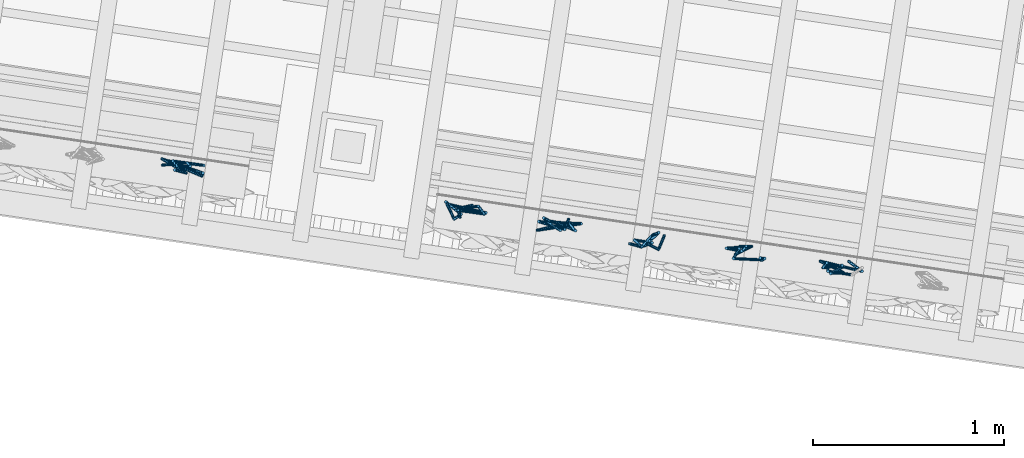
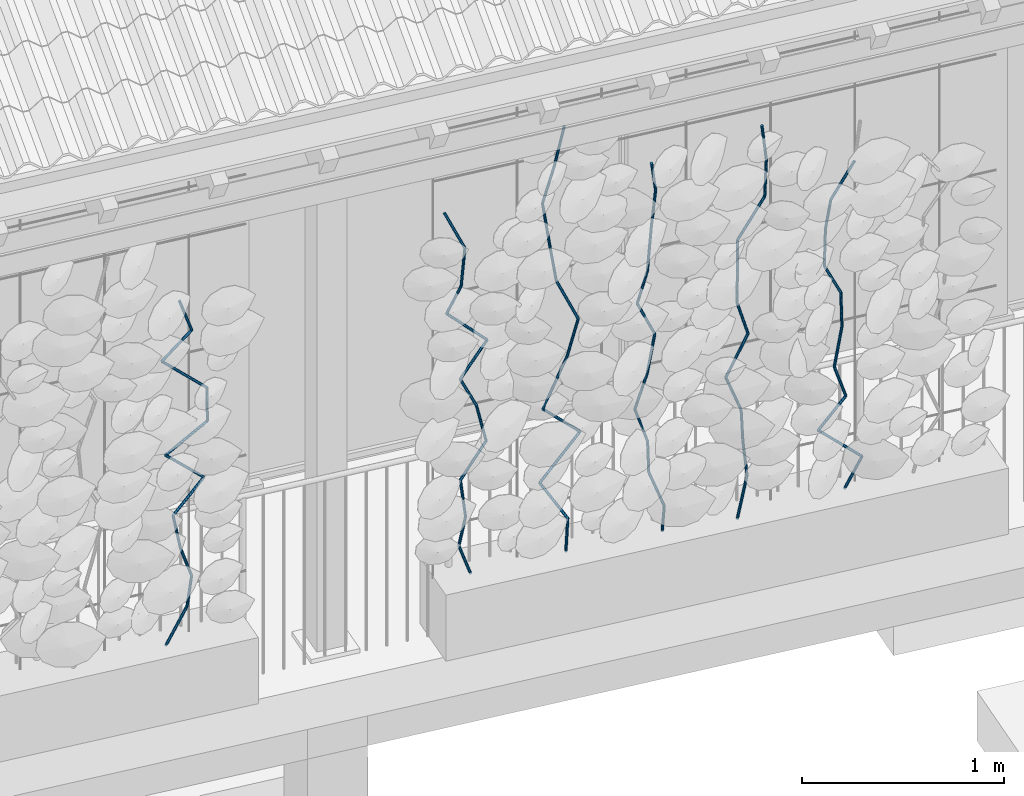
# One storey, part 112 of 131: 65 members, 1 element without a shape of its own.
"""IFC4 building model written with IfcOpenShell, lengths in metres."""

from ifc_helpers import new_model, si_unit, direction, frame, origin_with_axes, place, context, subcontext, project, spatial, circle, extrude, material, material_profile, profile_set, profile_usage, type_object, element, aggregate, save


model = new_model("IFC4")

# Units and contexts
model_context = context("Model", 3, precision=1e-05, world=origin_with_axes(), true_north=direction((0.0, 1.0)))
body_context = subcontext(model_context, "Body", "Model", "MODEL_VIEW")
ifc_project = project(units=[si_unit("VOLUMEUNIT", "CUBIC_METRE"), si_unit("LENGTHUNIT", "METRE"), si_unit("AREAUNIT", "SQUARE_METRE")], contexts=[model_context])

# Site, building, storey
site_placement = place(None, origin_with_axes())
site = spatial("IfcSite", under=ifc_project, at=site_placement, Name="Lares · Rua das Mercês · artigo 4771")
building_placement = place(site_placement, frame((15.0, 9.7, 14.65), z_axis=(0.0, 0.0, 1.0), x_axis=(0.989015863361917, -0.147809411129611, 0.0)))
building = spatial("IfcBuilding", under=site, at=building_placement, Name="Casa Sobreposta")
storey_placement = place(building_placement, origin_with_axes())
storey = spatial("IfcBuildingStorey", under=building, at=storey_placement, Name="00 · Habitação e estacionamento", Elevation=14.65)

# Assembly, members
assembly_placement = place(storey_placement, origin_with_axes())
assembly = element("IfcElementAssembly", 1, at=assembly_placement, inside=storey, Name="Fachada sul e pátio · estrutura e trepadeiras", ObjectType="LIVING_SHADE_TRELLIS", PredefinedType="USERDEFINED")
ifc_material = material(Name="Ramos de trepadeiras", Category="wood")
ifc_material_profile = material_profile(ifc_material, circle(Radius=0.0075))
ifc_profile_set = profile_set([ifc_material_profile], Name="D0.015")
ifc_profile_usage_1 = profile_usage(ifc_profile_set)
member_type = type_object("IfcMemberType", Name="D0.015 / vine_wood", PredefinedType="NOTDEFINED", material=ifc_profile_set)
member_1_placement = place(assembly_placement, frame((11.0508018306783, -1.67058010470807, 0.35), z_axis=(0.55084152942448, 0.13203763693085, 0.824099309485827), x_axis=(0.233098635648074, -0.972453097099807, 0.0)))
member_1 = element("IfcMember", 2, at=member_1_placement, type_object=member_type, material=ifc_profile_usage_1, Name="Trepadeiras · ramo", context=body_context, shape_type="SweptSolid", body=[
    extrude(circle(Radius=0.0075), origin_with_axes(), (0.0, 0.0, 1.0), 0.229820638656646),
])
ifc_profile_usage_2 = profile_usage(ifc_profile_set)
member_2_placement = place(assembly_placement, frame((11.1773965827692, -1.64023513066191, 0.539395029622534), z_axis=(0.0965667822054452, -0.0753530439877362, 0.992470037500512), x_axis=(-0.615188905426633, -0.788379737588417, 0.0)))
member_2 = element("IfcMember", 3, at=member_2_placement, type_object=member_type, material=ifc_profile_usage_2, Name="Trepadeiras · ramo", context=body_context, shape_type="SweptSolid", body=[
    extrude(circle(Radius=0.0075), origin_with_axes(), (0.0, 0.0, 1.0), 0.190831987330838),
])
ifc_profile_usage_3 = profile_usage(ifc_profile_set)
member_3_placement = place(assembly_placement, frame((11.1958246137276, -1.65461490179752, 0.728790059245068), z_axis=(-0.321966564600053, -0.0649523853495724, 0.944520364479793), x_axis=(-0.197752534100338, 0.980251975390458, 0.0)))
member_3 = element("IfcMember", 4, at=member_3_placement, type_object=member_type, material=ifc_profile_usage_3, Name="Trepadeiras · ramo", context=body_context, shape_type="SweptSolid", body=[
    extrude(circle(Radius=0.0075), origin_with_axes(), (0.0, 0.0, 1.0), 0.200519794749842),
])
ifc_profile_usage_4 = profile_usage(ifc_profile_set)
member_4_placement = place(assembly_placement, frame((11.1312639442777, -1.66763914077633, 0.918185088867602), z_axis=(-0.150701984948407, 0.136169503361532, 0.979156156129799), x_axis=(0.670426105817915, 0.741976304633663, 0.0)))
member_4 = element("IfcMember", 5, at=member_4_placement, type_object=member_type, material=ifc_profile_usage_4, Name="Trepadeiras · ramo", context=body_context, shape_type="SweptSolid", body=[
    extrude(circle(Radius=0.0075), origin_with_axes(), (0.0, 0.0, 1.0), 0.193426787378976),
])
ifc_profile_usage_5 = profile_usage(ifc_profile_set)
member_5_placement = place(assembly_placement, frame((11.1021141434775, -1.64130031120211, 1.10758011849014), z_axis=(0.657135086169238, 0.00567038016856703, 0.753751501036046), x_axis=(0.00862862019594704, -0.999962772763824, 0.0)))
member_5 = element("IfcMember", 6, at=member_5_placement, type_object=member_type, material=ifc_profile_usage_5, Name="Trepadeiras · ramo", context=body_context, shape_type="SweptSolid", body=[
    extrude(circle(Radius=0.0075), origin_with_axes(), (0.0, 0.0, 1.0), 0.251269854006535),
])
ifc_profile_usage_6 = profile_usage(ifc_profile_set)
member_6_placement = place(assembly_placement, frame((11.2672323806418, -1.639875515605, 1.29697514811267), z_axis=(-0.736902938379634, -0.0183902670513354, 0.675748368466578), x_axis=(-0.0249483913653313, 0.999688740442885, 0.0)))
member_6 = element("IfcMember", 7, at=member_6_placement, type_object=member_type, material=ifc_profile_usage_6, Name="Trepadeiras · ramo", context=body_context, shape_type="SweptSolid", body=[
    extrude(circle(Radius=0.0075), origin_with_axes(), (0.0, 0.0, 1.0), 0.280274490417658),
])
ifc_profile_usage_7 = profile_usage(ifc_profile_set)
member_7_placement = place(assembly_placement, frame((11.0606972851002, -1.64502983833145, 1.4863701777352), z_axis=(0.718234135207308, -0.182084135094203, 0.671554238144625), x_axis=(-0.245742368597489, -0.96933517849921, 0.0)))
member_7 = element("IfcMember", 8, at=member_7_placement, type_object=member_type, material=ifc_profile_usage_7, Name="Trepadeiras · ramo", context=body_context, shape_type="SweptSolid", body=[
    extrude(circle(Radius=0.0075), origin_with_axes(), (0.0, 0.0, 1.0), 0.282024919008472),
])
ifc_profile_usage_8 = profile_usage(ifc_profile_set)
member_8_placement = place(assembly_placement, frame((11.2632572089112, -1.69638210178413, 1.67576520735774), z_axis=(0.0233499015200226, 0.0843302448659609, 0.996164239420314), x_axis=(0.963739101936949, -0.266846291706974, 0.0)))
member_8 = element("IfcMember", 9, at=member_8_placement, type_object=member_type, material=ifc_profile_usage_8, Name="Trepadeiras · ramo", context=body_context, shape_type="SweptSolid", body=[
    extrude(circle(Radius=0.0075), origin_with_axes(), (0.0, 0.0, 1.0), 0.190124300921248),
])
ifc_profile_usage_9 = profile_usage(ifc_profile_set)
member_9_placement = place(assembly_placement, frame((11.2676965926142, -1.68034887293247, 1.86516023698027), z_axis=(-0.75677604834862, 0.141746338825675, 0.638120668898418), x_axis=(0.184101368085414, 0.982907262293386, 0.0)))
member_9 = element("IfcMember", 10, at=member_9_placement, type_object=member_type, material=ifc_profile_usage_9, Name="Trepadeiras · ramo", context=body_context, shape_type="SweptSolid", body=[
    extrude(circle(Radius=0.0075), origin_with_axes(), (0.0, 0.0, 1.0), 0.296801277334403),
])
ifc_profile_usage_10 = profile_usage(ifc_profile_set)
member_10_placement = place(assembly_placement, frame((11.0430844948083, -1.63827837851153, 2.05455526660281), z_axis=(0.573801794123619, -0.22738060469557, 0.786797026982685), x_axis=(-0.368399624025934, -0.929667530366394, 0.0)))
member_10 = element("IfcMember", 11, at=member_10_placement, type_object=member_type, material=ifc_profile_usage_10, Name="Trepadeiras · ramo", context=body_context, shape_type="SweptSolid", body=[
    extrude(circle(Radius=0.0075), origin_with_axes(), (0.0, 0.0, 1.0), 0.24071650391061),
])
ifc_profile_usage_11 = profile_usage(ifc_profile_set)
member_11_placement = place(assembly_placement, frame((11.1812080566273, -1.69301264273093, 2.24395029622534), z_axis=(-0.315945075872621, 0.0343198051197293, 0.948156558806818), x_axis=(0.107990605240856, 0.994151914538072, 0.0)))
member_11 = element("IfcMember", 12, at=member_11_placement, type_object=member_type, material=ifc_profile_usage_11, Name="Trepadeiras · ramo", context=body_context, shape_type="SweptSolid", body=[
    extrude(circle(Radius=0.0075), origin_with_axes(), (0.0, 0.0, 1.0), 0.199750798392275),
])
ifc_profile_usage_12 = profile_usage(ifc_profile_set)
member_12_placement = place(assembly_placement, frame((12.6883643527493, -1.63917440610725, 0.35), z_axis=(-0.336470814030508, -0.125122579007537, 0.933344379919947), x_axis=(-0.348548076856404, 0.937290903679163, 1.80409402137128e-17)))
member_12 = element("IfcMember", 13, at=member_12_placement, type_object=member_type, material=ifc_profile_usage_12, Name="Trepadeiras · ramo", context=body_context, shape_type="SweptSolid", body=[
    extrude(circle(Radius=0.0075), origin_with_axes(), (0.0, 0.0, 1.0), 0.216077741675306),
])
ifc_profile_usage_13 = profile_usage(ifc_profile_set)
member_13_placement = place(assembly_placement, frame((12.615660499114, -1.66621061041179, 0.551674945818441), z_axis=(0.0887015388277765, -0.214341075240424, 0.972722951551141), x_axis=(-0.924003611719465, -0.382383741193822, 0.0)))
member_13 = element("IfcMember", 14, at=member_13_placement, type_object=member_type, material=ifc_profile_usage_13, Name="Trepadeiras · ramo", context=body_context, shape_type="SweptSolid", body=[
    extrude(circle(Radius=0.0075), origin_with_axes(), (0.0, 0.0, 1.0), 0.207330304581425),
])
ifc_profile_usage_14 = profile_usage(ifc_profile_set)
member_14_placement = place(assembly_placement, frame((12.634051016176, -1.7106500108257, 0.753349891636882), z_axis=(-0.0687036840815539, 0.170096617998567, 0.983029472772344), x_axis=(0.92722135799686, 0.374513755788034, 0.0)))
member_14 = element("IfcMember", 15, at=member_14_placement, type_object=member_type, material=ifc_profile_usage_14, Name="Trepadeiras · ramo", context=body_context, shape_type="SweptSolid", body=[
    extrude(circle(Radius=0.0075), origin_with_axes(), (0.0, 0.0, 1.0), 0.205156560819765),
])
ifc_profile_usage_15 = profile_usage(ifc_profile_set)
member_15_placement = place(assembly_placement, frame((12.6199560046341, -1.67575357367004, 0.955024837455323), z_axis=(0.56454217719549, 0.00456700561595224, 0.825391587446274), x_axis=(0.00808948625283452, -0.999967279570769, 0.0)))
member_15 = element("IfcMember", 16, at=member_15_placement, type_object=member_type, material=ifc_profile_usage_15, Name="Trepadeiras · ramo", context=body_context, shape_type="SweptSolid", body=[
    extrude(circle(Radius=0.0075), origin_with_axes(), (0.0, 0.0, 1.0), 0.244338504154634),
])
ifc_profile_usage_16 = profile_usage(ifc_profile_set)
member_16_placement = place(assembly_placement, frame((12.7578953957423, -1.67463767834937, 1.15669978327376), z_axis=(-0.181709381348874, 0.171499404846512, 0.968281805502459), x_axis=(0.686380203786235, 0.727242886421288, 0.0)))
member_16 = element("IfcMember", 17, at=member_16_placement, type_object=member_type, material=ifc_profile_usage_16, Name="Trepadeiras · ramo", context=body_context, shape_type="SweptSolid", body=[
    extrude(circle(Radius=0.0075), origin_with_axes(), (0.0, 0.0, 1.0), 0.208281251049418),
])
ifc_profile_usage_17 = profile_usage(ifc_profile_set)
member_17_placement = place(assembly_placement, frame((12.7200487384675, -1.63891756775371, 1.3583747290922), z_axis=(-0.431555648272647, -0.12512410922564, 0.893366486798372), x_axis=(-0.278468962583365, 0.960445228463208, 0.0)))
member_17 = element("IfcMember", 18, at=member_17_placement, type_object=member_type, material=ifc_profile_usage_17, Name="Trepadeiras · ramo", context=body_context, shape_type="SweptSolid", body=[
    extrude(circle(Radius=0.0075), origin_with_axes(), (0.0, 0.0, 1.0), 0.225747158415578),
])
ifc_profile_usage_18 = profile_usage(ifc_profile_set)
member_18_placement = place(assembly_placement, frame((12.6226262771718, -1.66716397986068, 1.56004967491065), z_axis=(0.579734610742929, -0.000937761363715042, 0.814804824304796), x_axis=(-0.00161756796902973, -0.999998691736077, 0.0)))
member_18 = element("IfcMember", 19, at=member_18_placement, type_object=member_type, material=ifc_profile_usage_18, Name="Trepadeiras · ramo", context=body_context, shape_type="SweptSolid", body=[
    extrude(circle(Radius=0.0075), origin_with_axes(), (0.0, 0.0, 1.0), 0.247513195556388),
])
ifc_profile_usage_19 = profile_usage(ifc_profile_set)
member_19_placement = place(assembly_placement, frame((12.7661182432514, -1.66739608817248, 1.76172462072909), z_axis=(-0.719812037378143, 0.0546625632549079, 0.692013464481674), x_axis=(0.0757220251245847, 0.997128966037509, 0.0)))
member_19 = element("IfcMember", 20, at=member_19_placement, type_object=member_type, material=ifc_profile_usage_19, Name="Trepadeiras · ramo", context=body_context, shape_type="SweptSolid", body=[
    extrude(circle(Radius=0.0075), origin_with_axes(), (0.0, 0.0, 1.0), 0.291432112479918),
])
ifc_profile_usage_20 = profile_usage(ifc_profile_set)
member_20_placement = place(assembly_placement, frame((12.5563419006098, -1.65146566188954, 1.96339956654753), z_axis=(0.222509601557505, -0.33094915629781, 0.917039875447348), x_axis=(-0.829871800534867, -0.55795411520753, 0.0)))
member_20 = element("IfcMember", 21, at=member_20_placement, type_object=member_type, material=ifc_profile_usage_20, Name="Trepadeiras · ramo", context=body_context, shape_type="SweptSolid", body=[
    extrude(circle(Radius=0.0075), origin_with_axes(), (0.0, 0.0, 1.0), 0.21991949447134),
])
ifc_profile_usage_21 = profile_usage(ifc_profile_set)
member_21_placement = place(assembly_placement, frame((12.6052760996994, -1.72424783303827, 2.16507451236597), z_axis=(0.155301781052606, 0.148135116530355, 0.976697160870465), x_axis=(0.690213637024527, -0.723605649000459, 0.0)))
member_21 = element("IfcMember", 22, at=member_21_placement, type_object=member_type, material=ifc_profile_usage_21, Name="Trepadeiras · ramo", context=body_context, shape_type="SweptSolid", body=[
    extrude(circle(Radius=0.0075), origin_with_axes(), (0.0, 0.0, 1.0), 0.206486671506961),
])
ifc_profile_usage_22 = profile_usage(ifc_profile_set)
member_22_placement = place(assembly_placement, frame((12.637343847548, -1.69365990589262, 2.36674945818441), z_axis=(-0.391632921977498, 0.230705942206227, 0.890729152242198), x_axis=(0.507565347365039, 0.86161326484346, 0.0)))
member_22 = element("IfcMember", 23, at=member_22_placement, type_object=member_type, material=ifc_profile_usage_22, Name="Trepadeiras · ramo", context=body_context, shape_type="SweptSolid", body=[
    extrude(circle(Radius=0.0075), origin_with_axes(), (0.0, 0.0, 1.0), 0.22641556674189),
])
ifc_profile_usage_23 = profile_usage(ifc_profile_set)
member_23_placement = place(assembly_placement, frame((13.1981378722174, -1.63647160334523, 0.35), z_axis=(-0.0483561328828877, -0.226410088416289, 0.972831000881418), x_axis=(-0.977944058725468, 0.208866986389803, 0.0)))
member_23 = element("IfcMember", 24, at=member_23_placement, type_object=member_type, material=ifc_profile_usage_23, Name="Trepadeiras · ramo", context=body_context, shape_type="SweptSolid", body=[
    extrude(circle(Radius=0.0075), origin_with_axes(), (0.0, 0.0, 1.0), 0.2453154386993),
])
ifc_profile_usage_24 = profile_usage(ifc_profile_set)
member_24_placement = place(assembly_placement, frame((13.1862753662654, -1.69201349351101, 0.588650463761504), z_axis=(-0.50887648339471, 0.0723612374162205, 0.857792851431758), x_axis=(0.140781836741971, 0.9900406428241, 0.0)))
member_24 = element("IfcMember", 25, at=member_24_placement, type_object=member_type, material=ifc_profile_usage_24, Name="Trepadeiras · ramo", context=body_context, shape_type="SweptSolid", body=[
    extrude(circle(Radius=0.0075), origin_with_axes(), (0.0, 0.0, 1.0), 0.278214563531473),
])
ifc_profile_usage_25 = profile_usage(ifc_profile_set)
member_25_placement = place(assembly_placement, frame((13.0446985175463, -1.67188154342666, 0.827300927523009), z_axis=(0.682406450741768, 0.0679015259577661, 0.727812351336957), x_axis=(0.0990140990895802, -0.995086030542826, 0.0)))
member_25 = element("IfcMember", 26, at=member_25_placement, type_object=member_type, material=ifc_profile_usage_25, Name="Trepadeiras · ramo", context=body_context, shape_type="SweptSolid", body=[
    extrude(circle(Radius=0.0075), origin_with_axes(), (0.0, 0.0, 1.0), 0.327901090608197),
])
ifc_profile_usage_26 = profile_usage(ifc_profile_set)
member_26_placement = place(assembly_placement, frame((13.2684603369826, -1.64961655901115, 1.06595139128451), z_axis=(-0.671918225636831, -0.204945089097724, 0.711704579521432), x_axis=(-0.291745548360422, 0.95649596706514, 0.0)))
member_26 = element("IfcMember", 27, at=member_26_placement, type_object=member_type, material=ifc_profile_usage_26, Name="Trepadeiras · ramo", context=body_context, shape_type="SweptSolid", body=[
    extrude(circle(Radius=0.0075), origin_with_axes(), (0.0, 0.0, 1.0), 0.335322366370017),
])
ifc_profile_usage_27 = profile_usage(ifc_profile_set)
member_27_placement = place(assembly_placement, frame((13.0431511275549, -1.71833923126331, 1.30460185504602), z_axis=(0.530420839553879, 0.219056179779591, 0.818943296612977), x_axis=(0.381714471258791, -0.924280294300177, -1.98041948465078e-17)))
member_27 = element("IfcMember", 28, at=member_27_placement, type_object=member_type, material=ifc_profile_usage_27, Name="Trepadeiras · ramo", context=body_context, shape_type="SweptSolid", body=[
    extrude(circle(Radius=0.0075), origin_with_axes(), (0.0, 0.0, 1.0), 0.291412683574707),
])
ifc_profile_usage_28 = profile_usage(ifc_profile_set)
member_28_placement = place(assembly_placement, frame((13.1977224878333, -1.65450348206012, 1.54325231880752), z_axis=(0.18377495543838, -0.145686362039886, 0.972112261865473), x_axis=(-0.621221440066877, -0.783635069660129, -1.43815008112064e-17)))
member_28 = element("IfcMember", 29, at=member_28_placement, type_object=member_type, material=ifc_profile_usage_28, Name="Trepadeiras · ramo", context=body_context, shape_type="SweptSolid", body=[
    extrude(circle(Radius=0.0075), origin_with_axes(), (0.0, 0.0, 1.0), 0.245496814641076),
])
ifc_profile_usage_29 = profile_usage(ifc_profile_set)
member_29_placement = place(assembly_placement, frame((13.2428386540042, -1.69026901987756, 1.78190278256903), z_axis=(-0.402962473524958, 0.108809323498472, 0.908725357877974), x_axis=(0.260686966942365, 0.965423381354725, 0.0)))
member_29 = element("IfcMember", 30, at=member_29_placement, type_object=member_type, material=ifc_profile_usage_29, Name="Trepadeiras · ramo", context=body_context, shape_type="SweptSolid", body=[
    extrude(circle(Radius=0.0075), origin_with_axes(), (0.0, 0.0, 1.0), 0.262621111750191),
])
ifc_profile_usage_30 = profile_usage(ifc_profile_set)
member_30_placement = place(assembly_placement, frame((13.1370122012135, -1.6616933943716, 2.02055324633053), z_axis=(-0.152422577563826, 0.00593479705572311, 0.988297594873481), x_axis=(0.0389069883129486, 0.999242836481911, 0.0)))
member_30 = element("IfcMember", 31, at=member_30_placement, type_object=member_type, material=ifc_profile_usage_30, Name="Trepadeiras · ramo", context=body_context, shape_type="SweptSolid", body=[
    extrude(circle(Radius=0.0075), origin_with_axes(), (0.0, 0.0, 1.0), 0.241476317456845),
])
ifc_profile_usage_31 = profile_usage(ifc_profile_set)
member_31_placement = place(assembly_placement, frame((13.1002057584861, -1.66026028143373, 2.25920371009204), z_axis=(-0.131912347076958, 0.0464344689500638, 0.990173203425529), x_axis=(0.332038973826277, 0.943265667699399, 0.0)))
member_31 = element("IfcMember", 32, at=member_31_placement, type_object=member_type, material=ifc_profile_usage_31, Name="Trepadeiras · ramo", context=body_context, shape_type="SweptSolid", body=[
    extrude(circle(Radius=0.0075), origin_with_axes(), (0.0, 0.0, 1.0), 0.241018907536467),
])
ifc_profile_usage_32 = profile_usage(ifc_profile_set)
member_32_placement = place(assembly_placement, frame((13.068412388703, -1.64906869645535, 2.49785417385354), z_axis=(0.208079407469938, -0.133080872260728, 0.969016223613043), x_axis=(-0.53879532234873, -0.842436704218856, 0.0)))
member_32 = element("IfcMember", 33, at=member_32_placement, type_object=member_type, material=ifc_profile_usage_32, Name="Trepadeiras · ramo", context=body_context, shape_type="SweptSolid", body=[
    extrude(circle(Radius=0.0075), origin_with_axes(), (0.0, 0.0, 1.0), 0.246281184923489),
])
ifc_profile_usage_33 = profile_usage(ifc_profile_set)
member_33_placement = place(assembly_placement, frame((13.1196584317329, -1.68184401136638, 2.73650463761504), z_axis=(0.184400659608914, -0.0751760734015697, 0.979971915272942), x_axis=(-0.37751169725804, -0.926004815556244, 0.0)))
member_33 = element("IfcMember", 34, at=member_33_placement, type_object=member_type, material=ifc_profile_usage_33, Name="Trepadeiras · ramo", context=body_context, shape_type="SweptSolid", body=[
    extrude(circle(Radius=0.0075), origin_with_axes(), (0.0, 0.0, 1.0), 0.243527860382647),
])
ifc_profile_usage_34 = profile_usage(ifc_profile_set)
member_34_placement = place(assembly_placement, frame((13.707515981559, -1.64730025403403, 0.35), z_axis=(-0.0865034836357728, -0.343732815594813, 0.93507480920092), x_axis=(-0.969762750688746, 0.244049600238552, 0.0)))
member_34 = element("IfcMember", 35, at=member_34_placement, type_object=member_type, material=ifc_profile_usage_34, Name="Trepadeiras · ramo", context=body_context, shape_type="SweptSolid", body=[
    extrude(circle(Radius=0.0075), origin_with_axes(), (0.0, 0.0, 1.0), 0.220742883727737),
])
ifc_profile_usage_35 = profile_usage(ifc_profile_set)
member_35_placement = place(assembly_placement, frame((13.6884209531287, -1.72317682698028, 0.556411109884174), z_axis=(-0.333403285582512, 0.105685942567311, 0.936841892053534), x_axis=(0.302172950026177, 0.953253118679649, 0.0)))
member_35 = element("IfcMember", 36, at=member_35_placement, type_object=member_type, material=ifc_profile_usage_35, Name="Trepadeiras · ramo", context=body_context, shape_type="SweptSolid", body=[
    extrude(circle(Radius=0.0075), origin_with_axes(), (0.0, 0.0, 1.0), 0.22032651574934),
])
ifc_profile_usage_36 = profile_usage(ifc_profile_set)
member_36_placement = place(assembly_placement, frame((13.6149633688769, -1.69989141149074, 0.762822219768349), z_axis=(-0.0716497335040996, -0.103937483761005, 0.991999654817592), x_axis=(-0.82332860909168, 0.567564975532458, 0.0)))
member_36 = element("IfcMember", 37, at=member_36_placement, type_object=member_type, material=ifc_profile_usage_36, Name="Trepadeiras · ramo", context=body_context, shape_type="SweptSolid", body=[
    extrude(circle(Radius=0.0075), origin_with_axes(), (0.0, 0.0, 1.0), 0.208075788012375),
])
ifc_profile_usage_37 = profile_usage(ifc_profile_set)
member_37_placement = place(assembly_placement, frame((13.6000547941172, -1.72151828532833, 0.969233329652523), z_axis=(-0.303636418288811, 0.024705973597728, 0.952467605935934), x_axis=(0.0810989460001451, 0.996706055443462, 2.71183780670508e-18)))
member_37 = element("IfcMember", 38, at=member_37_placement, type_object=member_type, material=ifc_profile_usage_37, Name="Trepadeiras · ramo", context=body_context, shape_type="SweptSolid", body=[
    extrude(circle(Radius=0.0075), origin_with_axes(), (0.0, 0.0, 1.0), 0.216711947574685),
])
ifc_profile_usage_38 = profile_usage(ifc_profile_set)
member_38_placement = place(assembly_placement, frame((13.5342531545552, -1.71616420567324, 1.1756444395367), z_axis=(0.291531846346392, -0.0350196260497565, 0.9559198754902), x_axis=(-0.119265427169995, -0.992862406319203, 0.0)))
member_38 = element("IfcMember", 39, at=member_38_placement, type_object=member_type, material=ifc_profile_usage_38, Name="Trepadeiras · ramo", context=body_context, shape_type="SweptSolid", body=[
    extrude(circle(Radius=0.0075), origin_with_axes(), (0.0, 0.0, 1.0), 0.215929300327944),
])
ifc_profile_usage_39 = profile_usage(ifc_profile_set)
member_39_placement = place(assembly_placement, frame((13.5972034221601, -1.72372596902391, 1.38205554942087), z_axis=(0.242942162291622, 0.138322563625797, 0.960128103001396), x_axis=(0.494785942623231, -0.869014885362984, 0.0)))
member_39 = element("IfcMember", 40, at=member_39_placement, type_object=member_type, material=ifc_profile_usage_39, Name="Trepadeiras · ramo", context=body_context, shape_type="SweptSolid", body=[
    extrude(circle(Radius=0.0075), origin_with_axes(), (0.0, 0.0, 1.0), 0.214982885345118),
])
ifc_profile_usage_40 = profile_usage(ifc_profile_set)
member_40_placement = place(assembly_placement, frame((13.6494318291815, -1.6939889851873, 1.58846665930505), z_axis=(-0.411985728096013, 0.00275322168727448, 0.911186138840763), x_axis=(0.00668265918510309, 0.999977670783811, 0.0)))
member_40 = element("IfcMember", 41, at=member_40_placement, type_object=member_type, material=ifc_profile_usage_40, Name="Trepadeiras · ramo", context=body_context, shape_type="SweptSolid", body=[
    extrude(circle(Radius=0.0075), origin_with_axes(), (0.0, 0.0, 1.0), 0.226530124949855),
])
ifc_profile_usage_41 = profile_usage(ifc_profile_set)
member_41_placement = place(assembly_placement, frame((13.5561046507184, -1.69336529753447, 1.79487776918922), z_axis=(0.200214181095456, -0.135659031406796, 0.970314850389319), x_axis=(-0.56093336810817, -0.827860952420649, 0.0)))
member_41 = element("IfcMember", 42, at=member_41_placement, type_object=member_type, material=ifc_profile_usage_41, Name="Trepadeiras · ramo", context=body_context, shape_type="SweptSolid", body=[
    extrude(circle(Radius=0.0075), origin_with_axes(), (0.0, 0.0, 1.0), 0.212725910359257),
])
ifc_profile_usage_42 = profile_usage(ifc_profile_set)
member_42_placement = place(assembly_placement, frame((13.5986953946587, -1.72222348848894, 2.00128887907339), z_axis=(0.217077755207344, 0.313378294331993, 0.924484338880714), x_axis=(0.822040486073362, -0.569429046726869, 0.0)))
member_42 = element("IfcMember", 43, at=member_42_placement, type_object=member_type, material=ifc_profile_usage_42, Name="Trepadeiras · ramo", context=body_context, shape_type="SweptSolid", body=[
    extrude(circle(Radius=0.0075), origin_with_axes(), (0.0, 0.0, 1.0), 0.22327161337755),
])
ifc_profile_usage_43 = profile_usage(ifc_profile_set)
member_43_placement = place(assembly_placement, frame((13.6471626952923, -1.65225501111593, 2.20769998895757), z_axis=(0.140752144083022, 0.0765897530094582, 0.987077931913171), x_axis=(0.477966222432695, -0.878378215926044, 0.0)))
member_43 = element("IfcMember", 44, at=member_43_placement, type_object=member_type, material=ifc_profile_usage_43, Name="Trepadeiras · ramo", context=body_context, shape_type="SweptSolid", body=[
    extrude(circle(Radius=0.0075), origin_with_axes(), (0.0, 0.0, 1.0), 0.209113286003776),
])
ifc_profile_usage_44 = profile_usage(ifc_profile_set)
member_44_placement = place(assembly_placement, frame((13.6765958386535, -1.6362390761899, 2.41411109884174), z_axis=(-0.190932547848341, -0.232948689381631, 0.953561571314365), x_axis=(-0.773406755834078, 0.633910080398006, 0.0)))
member_44 = element("IfcMember", 45, at=member_44_placement, type_object=member_type, material=ifc_profile_usage_44, Name="Trepadeiras · ramo", context=body_context, shape_type="SweptSolid", body=[
    extrude(circle(Radius=0.0075), origin_with_axes(), (0.0, 0.0, 1.0), 0.216463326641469),
])
ifc_profile_usage_45 = profile_usage(ifc_profile_set)
member_45_placement = place(assembly_placement, frame((14.089784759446, -1.69053047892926, 0.35), z_axis=(0.316343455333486, 0.225434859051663, 0.92146944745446), x_axis=(0.580343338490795, -0.814371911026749, 0.0)))
member_45 = element("IfcMember", 46, at=member_45_placement, type_object=member_type, material=ifc_profile_usage_45, Name="Trepadeiras · ramo", context=body_context, shape_type="SweptSolid", body=[
    extrude(circle(Radius=0.0075), origin_with_axes(), (0.0, 0.0, 1.0), 0.231881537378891),
])
ifc_profile_usage_46 = profile_usage(ifc_profile_set)
member_46_placement = place(assembly_placement, frame((14.1631389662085, -1.63825629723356, 0.563671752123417), z_axis=(-0.104388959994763, -0.00378263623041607, 0.99452935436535), x_axis=(-0.0362122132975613, 0.99934412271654, 0.0)))
member_46 = element("IfcMember", 47, at=member_46_placement, type_object=member_type, material=ifc_profile_usage_46, Name="Trepadeiras · ramo", context=body_context, shape_type="SweptSolid", body=[
    extrude(circle(Radius=0.0075), origin_with_axes(), (0.0, 0.0, 1.0), 0.214847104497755),
])
ifc_profile_usage_47 = profile_usage(ifc_profile_set)
member_47_placement = place(assembly_placement, frame((14.1407113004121, -1.63906898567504, 0.777343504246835), z_axis=(-0.0957131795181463, -0.131820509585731, 0.98664195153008), x_axis=(-0.809192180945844, 0.587544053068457, 0.0)))
member_47 = element("IfcMember", 48, at=member_47_placement, type_object=member_type, material=ifc_profile_usage_47, Name="Trepadeiras · ramo", context=body_context, shape_type="SweptSolid", body=[
    extrude(circle(Radius=0.0075), origin_with_axes(), (0.0, 0.0, 1.0), 0.216564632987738),
])
ifc_profile_usage_48 = profile_usage(ifc_profile_set)
member_48_placement = place(assembly_placement, frame((14.1199832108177, -1.66761664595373, 0.991015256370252), z_axis=(-0.352648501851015, 0.013847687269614, 0.935653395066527), x_axis=(0.0392374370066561, 0.999229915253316, 0.0)))
member_48 = element("IfcMember", 49, at=member_48_placement, type_object=member_type, material=ifc_profile_usage_48, Name="Trepadeiras · ramo", context=body_context, shape_type="SweptSolid", body=[
    extrude(circle(Radius=0.0075), origin_with_axes(), (0.0, 0.0, 1.0), 0.228366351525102),
])
ifc_profile_usage_49 = profile_usage(ifc_profile_set)
member_49_placement = place(assembly_placement, frame((14.0394501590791, -1.6644543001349, 1.20468700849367), z_axis=(0.517002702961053, 0.116317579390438, 0.848043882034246), x_axis=(0.219497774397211, -0.975613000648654, 0.0)))
member_49 = element("IfcMember", 50, at=member_49_placement, type_object=member_type, material=ifc_profile_usage_49, Name="Trepadeiras · ramo", context=body_context, shape_type="SweptSolid", body=[
    extrude(circle(Radius=0.0075), origin_with_axes(), (0.0, 0.0, 1.0), 0.251958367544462),
])
ifc_profile_usage_50 = profile_usage(ifc_profile_set)
member_50_placement = place(assembly_placement, frame((14.1697133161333, -1.63514711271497, 1.41835876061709), z_axis=(-0.286330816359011, -0.0449724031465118, 0.957074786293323), x_axis=(-0.155162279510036, 0.987888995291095, 0.0)))
member_50 = element("IfcMember", 51, at=member_50_placement, type_object=member_type, material=ifc_profile_usage_50, Name="Trepadeiras · ramo", context=body_context, shape_type="SweptSolid", body=[
    extrude(circle(Radius=0.0075), origin_with_axes(), (0.0, 0.0, 1.0), 0.223255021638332),
])
ifc_profile_usage_51 = profile_usage(ifc_profile_set)
member_51_placement = place(assembly_placement, frame((14.1057885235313, -1.64518742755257, 1.6320305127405), z_axis=(-0.00193407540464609, -0.0531973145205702, 0.998582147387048), x_axis=(-0.999339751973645, 0.0363326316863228, 0.0)))
member_51 = element("IfcMember", 52, at=member_51_placement, type_object=member_type, material=ifc_profile_usage_51, Name="Trepadeiras · ramo", context=body_context, shape_type="SweptSolid", body=[
    extrude(circle(Radius=0.0075), origin_with_axes(), (0.0, 0.0, 1.0), 0.213975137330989),
])
ifc_profile_usage_52 = profile_usage(ifc_profile_set)
member_52_placement = place(assembly_placement, frame((14.105374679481, -1.65657033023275, 1.84570226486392), z_axis=(-0.0950574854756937, -0.25219014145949, 0.962997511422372), x_axis=(-0.935734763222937, 0.352704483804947, 0.0)))
member_52 = element("IfcMember", 53, at=member_52_placement, type_object=member_type, material=ifc_profile_usage_52, Name="Trepadeiras · ramo", context=body_context, shape_type="SweptSolid", body=[
    extrude(circle(Radius=0.0075), origin_with_axes(), (0.0, 0.0, 1.0), 0.22188193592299),
])
ifc_profile_usage_53 = profile_usage(ifc_profile_set)
member_53_placement = place(assembly_placement, frame((14.0842831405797, -1.71252676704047, 2.05937401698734), z_axis=(0.572708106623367, 0.0578064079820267, 0.817718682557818), x_axis=(0.100424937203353, -0.994944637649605, 0.0)))
member_53 = element("IfcMember", 54, at=member_53_placement, type_object=member_type, material=ifc_profile_usage_53, Name="Trepadeiras · ramo", context=body_context, shape_type="SweptSolid", body=[
    extrude(circle(Radius=0.0075), origin_with_axes(), (0.0, 0.0, 1.0), 0.261302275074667),
])
ifc_profile_usage_54 = profile_usage(ifc_profile_set)
member_54_placement = place(assembly_placement, frame((14.2339330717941, -1.69742182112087, 2.27304576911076), z_axis=(0.0575069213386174, 0.0420615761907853, 0.997458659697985), x_axis=(0.590357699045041, -0.807141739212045, 6.0714840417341e-18)))
member_54 = element("IfcMember", 55, at=member_54_placement, type_object=member_type, material=ifc_profile_usage_54, Name="Trepadeiras · ramo", context=body_context, shape_type="SweptSolid", body=[
    extrude(circle(Radius=0.0075), origin_with_axes(), (0.0, 0.0, 1.0), 0.214216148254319),
])
ifc_profile_usage_55 = profile_usage(ifc_profile_set)
member_55_placement = place(assembly_placement, frame((14.2462519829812, -1.68841155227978, 2.48671752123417), z_axis=(-0.112142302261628, -0.00380703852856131, 0.993684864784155), x_axis=(-0.0339287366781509, 0.999424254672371, 0.0)))
member_55 = element("IfcMember", 56, at=member_55_placement, type_object=member_type, material=ifc_profile_usage_55, Name="Trepadeiras · ramo", context=body_context, shape_type="SweptSolid", body=[
    extrude(circle(Radius=0.0075), origin_with_axes(), (0.0, 0.0, 1.0), 0.215029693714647),
])
ifc_profile_usage_56 = profile_usage(ifc_profile_set)
member_56_placement = place(assembly_placement, frame((14.6832035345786, -1.63793743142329, 0.35), z_axis=(0.349612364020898, -0.186245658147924, 0.918195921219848), x_axis=(-0.470167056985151, -0.882577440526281, 0.0)))
member_56 = element("IfcMember", 57, at=member_56_placement, type_object=member_type, material=ifc_profile_usage_56, Name="Trepadeiras · ramo", context=body_context, shape_type="SweptSolid", body=[
    extrude(circle(Radius=0.0075), origin_with_axes(), (0.0, 0.0, 1.0), 0.220095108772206),
])
ifc_profile_usage_57 = profile_usage(ifc_profile_set)
member_57_placement = place(assembly_placement, frame((14.7601515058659, -1.67892918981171, 0.552090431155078), z_axis=(-0.743697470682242, 0.0667734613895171, 0.665173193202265), x_axis=(0.0894260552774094, 0.995993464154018, 0.0)))
member_57 = element("IfcMember", 58, at=member_57_placement, type_object=member_type, material=ifc_profile_usage_57, Name="Trepadeiras · ramo", context=body_context, shape_type="SweptSolid", body=[
    extrude(circle(Radius=0.0075), origin_with_axes(), (0.0, 0.0, 1.0), 0.303816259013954),
])
ifc_profile_usage_58 = profile_usage(ifc_profile_set)
member_58_placement = place(assembly_placement, frame((14.5342041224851, -1.65864232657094, 0.754180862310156), z_axis=(0.536352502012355, -0.170072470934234, 0.826680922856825), x_axis=(-0.30225917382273, -0.953225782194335, 2.03893615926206e-17)))
member_58 = element("IfcMember", 59, at=member_58_placement, type_object=member_type, material=ifc_profile_usage_58, Name="Trepadeiras · ramo", context=body_context, shape_type="SweptSolid", body=[
    extrude(circle(Radius=0.0075), origin_with_axes(), (0.0, 0.0, 1.0), 0.244460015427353),
])
ifc_profile_usage_59 = profile_usage(ifc_profile_set)
member_59_placement = place(assembly_placement, frame((14.6653208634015, -1.70021824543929, 0.956271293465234), z_axis=(-0.313639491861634, -0.0653568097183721, 0.947290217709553), x_axis=(-0.203999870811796, 0.978970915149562, 0.0)))
member_59 = element("IfcMember", 60, at=member_59_placement, type_object=member_type, material=ifc_profile_usage_59, Name="Trepadeiras · ramo", context=body_context, shape_type="SweptSolid", body=[
    extrude(circle(Radius=0.0075), origin_with_axes(), (0.0, 0.0, 1.0), 0.213335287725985),
])
ifc_profile_usage_60 = profile_usage(ifc_profile_set)
member_60_placement = place(assembly_placement, frame((14.598410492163, -1.71416115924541, 1.15836172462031), z_axis=(0.267049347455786, 0.195858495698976, 0.943569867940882), x_axis=(0.591407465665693, -0.806372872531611, -1.97700923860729e-17)))
member_60 = element("IfcMember", 61, at=member_60_placement, type_object=member_type, material=ifc_profile_usage_60, Name="Trepadeiras · ramo", context=body_context, shape_type="SweptSolid", body=[
    extrude(circle(Radius=0.0075), origin_with_axes(), (0.0, 0.0, 1.0), 0.214176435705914),
])
ifc_profile_usage_61 = profile_usage(ifc_profile_set)
member_61_placement = place(assembly_placement, frame((14.6556061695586, -1.67221288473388, 1.36045215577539), z_axis=(-0.0135537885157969, 0.0398417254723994, 0.999114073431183), x_axis=(0.999908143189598, 0.000540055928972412, 0.0135430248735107)))
member_61 = element("IfcMember", 62, at=member_61_placement, type_object=member_type, material=ifc_profile_usage_61, Name="Trepadeiras · ramo", context=body_context, shape_type="SweptSolid", body=[
    extrude(circle(Radius=0.0075), origin_with_axes(), (0.0, 0.0, 1.0), 0.202269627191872),
])
ifc_profile_usage_62 = profile_usage(ifc_profile_set)
member_62_placement = place(assembly_placement, frame((14.6528646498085, -1.6641541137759, 1.56254258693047), z_axis=(-0.434475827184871, -0.116936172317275, 0.893060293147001), x_axis=(-0.259894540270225, 0.965637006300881, 0.0)))
member_62 = element("IfcMember", 63, at=member_62_placement, type_object=member_type, material=ifc_profile_usage_62, Name="Trepadeiras · ramo", context=body_context, shape_type="SweptSolid", body=[
    extrude(circle(Radius=0.0075), origin_with_axes(), (0.0, 0.0, 1.0), 0.226289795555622),
])
ifc_profile_usage_63 = profile_usage(ifc_profile_set)
member_63_placement = place(assembly_placement, frame((14.554547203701, -1.69061557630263, 1.76463301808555), z_axis=(0.0804594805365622, 0.13203678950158, 0.987973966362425), x_axis=(0.853942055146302, -0.520368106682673, 0.0)))
member_63 = element("IfcMember", 64, at=member_63_placement, type_object=member_type, material=ifc_profile_usage_63, Name="Trepadeiras · ramo", context=body_context, shape_type="SweptSolid", body=[
    extrude(circle(Radius=0.0075), origin_with_axes(), (0.0, 0.0, 1.0), 0.204550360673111),
])
ifc_profile_usage_64 = profile_usage(ifc_profile_set)
member_64_placement = place(assembly_placement, frame((14.5710052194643, -1.66360740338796, 1.96672344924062), z_axis=(0.0611437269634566, -0.199163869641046, 0.978056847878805), x_axis=(-0.955964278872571, -0.293483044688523, 0.0)))
member_64 = element("IfcMember", 65, at=member_64_placement, type_object=member_type, material=ifc_profile_usage_64, Name="Trepadeiras · ramo", context=body_context, shape_type="SweptSolid", body=[
    extrude(circle(Radius=0.0075), origin_with_axes(), (0.0, 0.0, 1.0), 0.206624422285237),
])
ifc_profile_usage_65 = profile_usage(ifc_profile_set)
member_65_placement = place(assembly_placement, frame((14.5836390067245, -1.70475952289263, 2.1688138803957), z_axis=(0.530354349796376, -0.000954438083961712, 0.847775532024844), x_axis=(-0.00179962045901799, -0.999998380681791, 0.0)))
member_65 = element("IfcMember", 66, at=member_65_placement, type_object=member_type, material=ifc_profile_usage_65, Name="Trepadeiras · ramo", context=body_context, shape_type="SweptSolid", body=[
    extrude(circle(Radius=0.0075), origin_with_axes(), (0.0, 0.0, 1.0), 0.238377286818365),
])
aggregate(assembly, [member_1, member_2, member_3, member_4, member_5, member_6, member_7, member_8, member_9, member_10, member_11, member_12, member_13, member_14, member_15, member_16, member_17, member_18, member_19, member_20, member_21, member_22, member_23, member_24, member_25, member_26, member_27, member_28, member_29, member_30, member_31, member_32, member_33, member_34, member_35, member_36, member_37, member_38, member_39, member_40, member_41, member_42, member_43, member_44, member_45, member_46, member_47, member_48, member_49, member_50, member_51, member_52, member_53, member_54, member_55, member_56, member_57, member_58, member_59, member_60, member_61, member_62, member_63, member_64, member_65])

save(model, "model.ifc")
